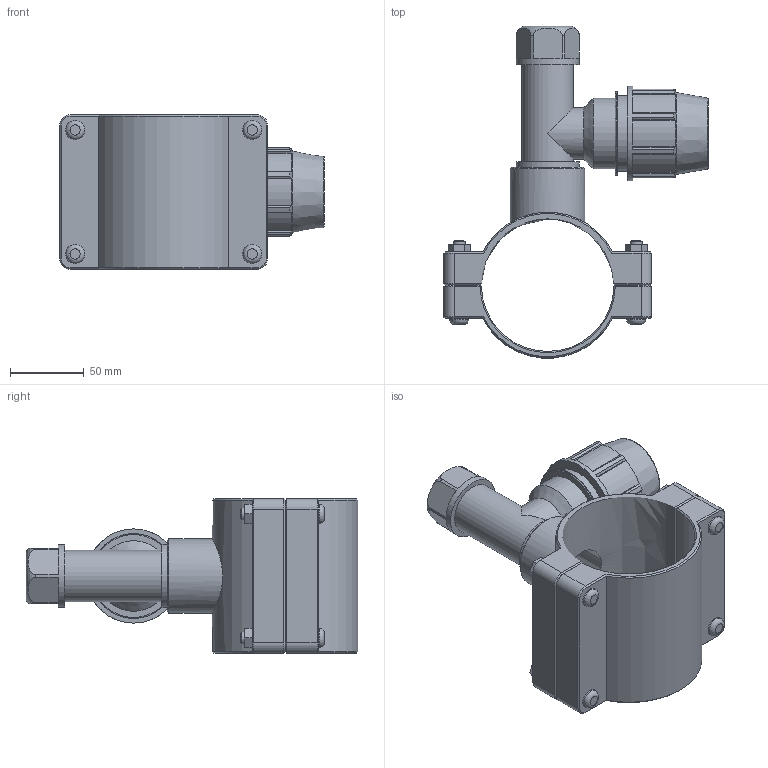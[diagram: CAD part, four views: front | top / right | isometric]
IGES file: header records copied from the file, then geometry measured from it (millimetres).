
Global section: file name: 165400090032_165406090032.ipt; native system: Autodesk Inventor 2015; preprocessor: unknown; author: KIM; date: 20170618.093908; units: millimetre
Bounding box: 179.5 x 225.32 x 105 mm (x, y, z)
Volume: 563027.9 mm3; surface area: 149731.4 mm2
Topology: 1 solids, 1 shells, 232 faces, 582 edges, 378 vertices
Faces by surface type: plane 145, cylinder 42, cone 28, revolution 17
Full cylindrical faces by diameter (mm): 8 x4, 13 x8, 35.057 x2, 38.952 x1, 42.847 x2, 48 x1, 50.638 x1, 51.2 x1, 57.6 x1, 64 x1
